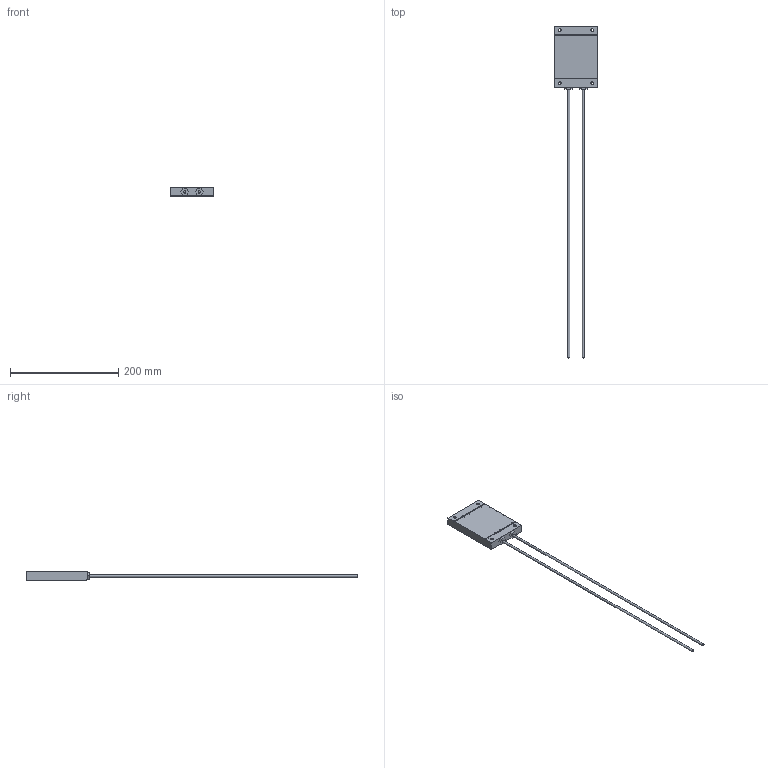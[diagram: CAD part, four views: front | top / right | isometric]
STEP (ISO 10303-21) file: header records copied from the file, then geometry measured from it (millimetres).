
FILE_DESCRIPTION(/* description */ (''),/* implementation_level */ '2;1');
FILE_NAME(/* name */ 'C:\_Vault\Dati\CATALOGO\RFK\Disegni catalogo\RFK250.stp',/* time_stamp */ '2014-03-27T18:26:57+01:00',/* author */ ('stefano'),/* organization */ (''),/* preprocessor_version */ 'ST-DEVELOPER v15.2',/* originating_system */ 'Autodesk Inventor 2014',/* authorisation */ '');
FILE_SCHEMA (('AUTOMOTIVE_DESIGN { 1 0 10303 214 3 1 1 }'));
Length unit declared in the file: millimetre
Products named in the file (1): RFK250
Bounding box: 80 x 613.2 x 15 mm (x, y, z)
Volume: 77209.8 mm3; surface area: 62299.5 mm2
Topology: 3 solids, 3 shells, 118 faces, 302 edges, 204 vertices
Faces by surface type: plane 96, cylinder 20, cone 2
Full cylindrical faces by diameter (mm): 4.1 x2, 4.5 x2, 5 x8, 6 x4, 7 x2, 8.917 x2
Entity records: 3534 total; most frequent: CARTESIAN_POINT 579, DIRECTION 546, ORIENTED_EDGE 536, EDGE_CURVE 268, LINE 228, VECTOR 228, VERTEX_POINT 192, EDGE_LOOP 176
